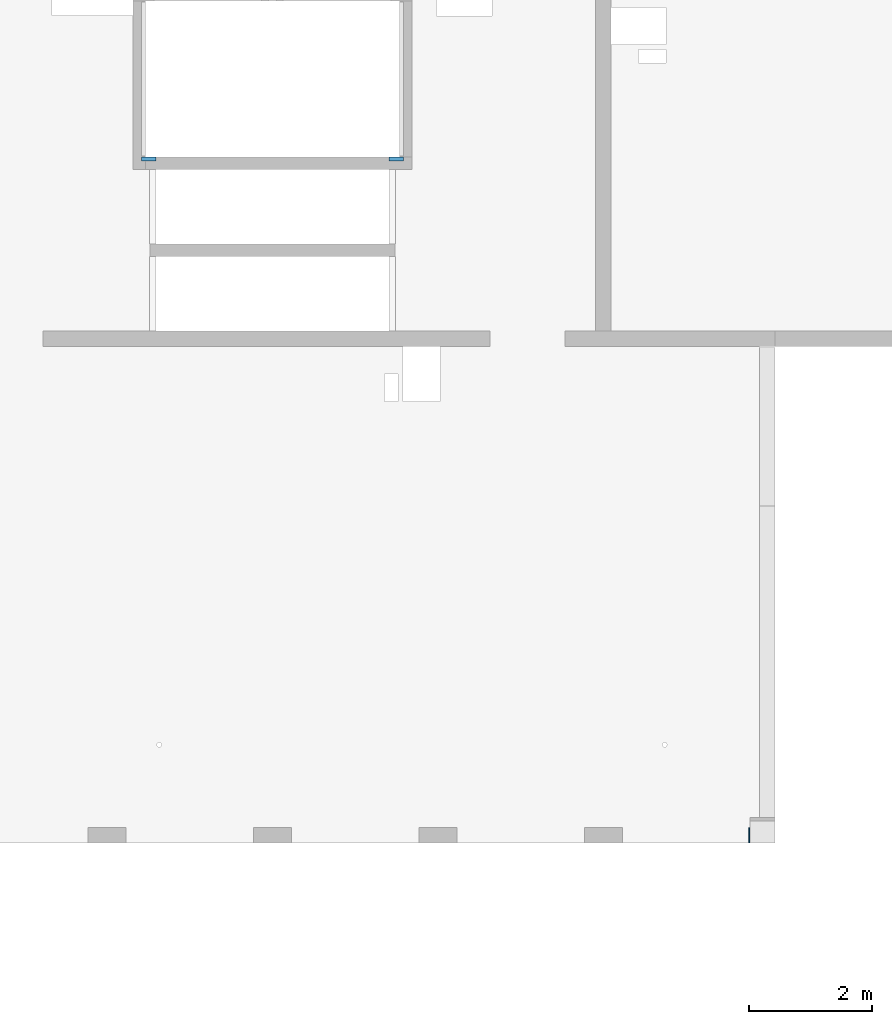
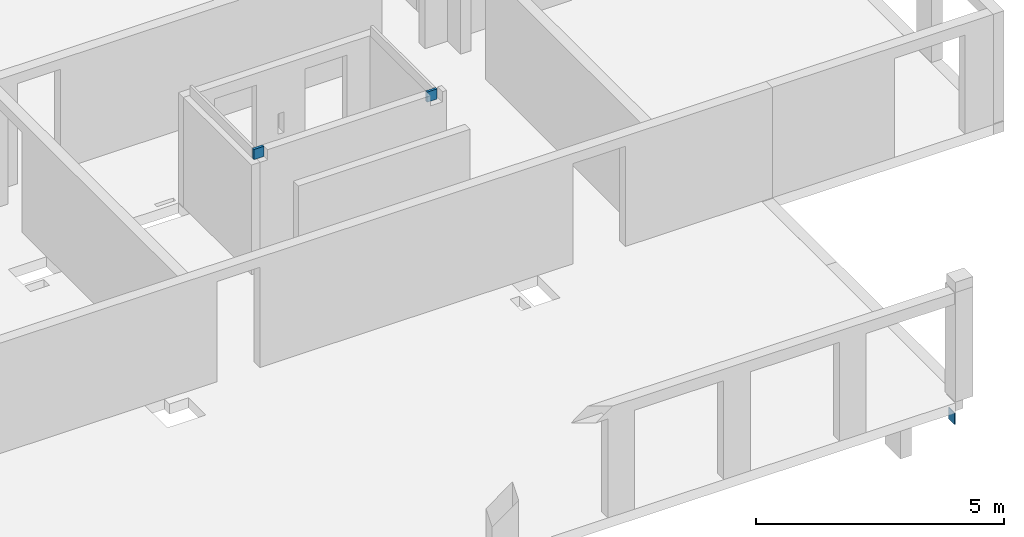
# One storey, part 11 of 12: 3 walls, 1 opening.
"""IFC2X3 building model written with IfcOpenShell, lengths in millimetres."""

from ifc_helpers import new_model, entity, si_unit, converted_unit, derived_unit, direction, frame, frame_2d, origin, place, context, subcontext, project, spatial, rectangle, extrude, material, layer, layer_set, layer_usage, type_object, element, save


model = new_model("IFC2X3")

# Units and contexts
model_context = context("Model", 3, precision=0.01, world=origin(), true_north=direction((6.12303176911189e-17, 1.0)))
body_context = subcontext(model_context, "Body", "Model", "MODEL_VIEW")
ifc_project = project(units=[si_unit("LENGTHUNIT", "METRE", prefix="MILLI"), si_unit("AREAUNIT", "SQUARE_METRE"), si_unit("VOLUMEUNIT", "CUBIC_METRE"), converted_unit("PLANEANGLEUNIT", "DEGREE", entity("IfcRatioMeasure", 0.0174532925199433), si_unit("PLANEANGLEUNIT", "RADIAN"), dimensions=[0, 0, 0, 0, 0, 0, 0]), si_unit("MASSUNIT", "GRAM", prefix="KILO"), derived_unit("MASSDENSITYUNIT", [(si_unit("MASSUNIT", "GRAM", prefix="KILO"), 1), (si_unit("LENGTHUNIT", "METRE"), -3)]), si_unit("TIMEUNIT", "SECOND"), si_unit("FREQUENCYUNIT", "HERTZ"), si_unit("THERMODYNAMICTEMPERATUREUNIT", "DEGREE_CELSIUS"), derived_unit("THERMALTRANSMITTANCEUNIT", [(si_unit("MASSUNIT", "GRAM", prefix="KILO"), 1), (si_unit("THERMODYNAMICTEMPERATUREUNIT", "KELVIN"), -1), (si_unit("TIMEUNIT", "SECOND"), -3)]), derived_unit("VOLUMETRICFLOWRATEUNIT", [(si_unit("LENGTHUNIT", "METRE"), 3), (si_unit("TIMEUNIT", "SECOND"), -1)]), si_unit("ELECTRICCURRENTUNIT", "AMPERE"), si_unit("ELECTRICVOLTAGEUNIT", "VOLT"), si_unit("POWERUNIT", "WATT"), si_unit("FORCEUNIT", "NEWTON", prefix="KILO"), si_unit("ILLUMINANCEUNIT", "LUX"), si_unit("LUMINOUSFLUXUNIT", "LUMEN"), si_unit("LUMINOUSINTENSITYUNIT", "CANDELA"), derived_unit("USERDEFINED", [(si_unit("MASSUNIT", "GRAM", prefix="KILO"), -1), (si_unit("LENGTHUNIT", "METRE"), -2), (si_unit("TIMEUNIT", "SECOND"), 3), (si_unit("LUMINOUSFLUXUNIT", "LUMEN"), 1)]), derived_unit("LINEARVELOCITYUNIT", [(si_unit("LENGTHUNIT", "METRE"), 1), (si_unit("TIMEUNIT", "SECOND"), -1)]), si_unit("PRESSUREUNIT", "PASCAL"), derived_unit("USERDEFINED", [(si_unit("LENGTHUNIT", "METRE"), -2), (si_unit("MASSUNIT", "GRAM", prefix="KILO"), 1), (si_unit("TIMEUNIT", "SECOND"), -2)])], contexts=[model_context])

# Site, building, storey
site_placement = place(None, origin())
site = spatial("IfcSite", under=ifc_project, at=site_placement, Name="Default", CompositionType="ELEMENT")
building_placement = place(site_placement, origin())
building = spatial("IfcBuilding", under=site, at=building_placement, Name="niet gebruiken", CompositionType="ELEMENT")
storey_placement = place(building_placement, frame((0.0, 0.0, 21510.0)))
storey = spatial("IfcBuildingStorey", under=building, at=storey_placement, Name="07 zevende verdieping", CompositionType="ELEMENT", Elevation=21510.0)

# Wall, opening
ifc_material_1 = material(Name="NLRS_f2_beton ihwg")
ifc_layer_1 = layer(ifc_material_1, 250.0)
ifc_layer_set_1 = layer_set([ifc_layer_1], Name="Basic Wall:NLRS_21.21_WA_beton ihwg d=250_gen")
ifc_layer_usage_1 = layer_usage(ifc_layer_set_1, "AXIS2", "NEGATIVE", 125.0)
wall_type_1 = type_object("IfcWallType", Name="Basic Wall:NLRS_21.21_WA_beton ihwg d=250_gen", PredefinedType="STANDARD", material=ifc_layer_set_1)
wall_1_placement = place(storey_placement, frame((99570.0, 28881.0, -620.0)))
wall_1 = element("IfcWallStandardCase", 1, at=wall_1_placement, inside=storey, type_object=wall_type_1, material=ifc_layer_usage_1, Name="Basic Wall:NLRS_21.21_WA_beton ihwg d=250_gen", ObjectType="Basic Wall:NLRS_21.21_WA_beton ihwg d=250_gen", context=body_context, shape_type="SweptSolid", body=[
    extrude(rectangle(XDim=19.9999999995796, YDim=250.000000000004, at=frame_2d((9.99999999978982, 1.63424829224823e-13), x_axis=(-1.0, 0.0))), origin(), (0.0, 0.0, 1.0), 280.000000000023),
])
opening_placement = place(wall_1_placement, origin())
element("IfcOpeningElement", 2, at=opening_placement, cuts=wall_1, Name="Basic Wall:NLRS_21.21_WA_beton ihwg d=250_gen", ObjectType="Opening", context=body_context, shape_type="SweptSolid", body=[
    extrude(rectangle(XDim=2440.0, YDim=2080.0, at=frame_2d((-8.64019966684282e-12, -2.1600499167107e-12), x_axis=(0.0, 1.0))), frame((-1020.0, -1399.0, -1220.0), z_axis=(0.0, 1.0, 0.0), x_axis=(-1.0, 0.0, 0.0)), (0.0, 0.0, 1.0), 3048.0),
])

# Walls
ifc_material_2 = material(Name="NLRS_f2_beton prefab")
ifc_layer_2 = layer(ifc_material_2, 60.0)
ifc_layer_set_2 = layer_set([ifc_layer_2], Name="Basic Wall:NLRS_22.21_WA_beton prefab d=60_gen")
ifc_layer_usage_2 = layer_usage(ifc_layer_set_2, "AXIS2", "NEGATIVE", 30.0)
wall_type_2 = type_object("IfcWallType", Name="Basic Wall:NLRS_22.21_WA_beton prefab d=60_gen", PredefinedType="STANDARD", material=ifc_layer_set_2)
wall_2_placement = place(storey_placement, frame((89665.02321398, 39916.0, 2630.0)))
element("IfcWallStandardCase", 3, at=wall_2_placement, inside=storey, type_object=wall_type_2, material=ifc_layer_usage_2, Name="Basic Wall:NLRS_22.21_WA_beton prefab d=60_gen", ObjectType="Basic Wall:NLRS_22.21_WA_beton prefab d=60_gen", context=body_context, shape_type="SweptSolid", body=[
    extrude(rectangle(XDim=234.976753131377, YDim=60.0000000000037, at=frame_2d((117.488376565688, -4.12292422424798e-12), x_axis=(-1.0, 0.0))), origin(), (0.0, 0.0, 1.0), 250.000000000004),
])
ifc_layer_usage_3 = layer_usage(ifc_layer_set_2, "AXIS2", "POSITIVE", -30.0)
wall_3_placement = place(storey_placement, frame((93934.9767860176, 39916.0, 2630.0), z_axis=(0.0, 0.0, 1.0), x_axis=(-1.0, 0.0, 0.0)))
element("IfcWallStandardCase", 4, at=wall_3_placement, inside=storey, type_object=wall_type_2, material=ifc_layer_usage_3, Name="Basic Wall:NLRS_22.21_WA_beton prefab d=60_gen", ObjectType="Basic Wall:NLRS_22.21_WA_beton prefab d=60_gen", context=body_context, shape_type="SweptSolid", body=[
    extrude(rectangle(XDim=234.976753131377, YDim=60.0000000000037, at=frame_2d((117.488376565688, 4.12114786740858e-12), x_axis=(-1.0, 0.0))), origin(), (0.0, 0.0, 1.0), 250.000000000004),
])

save(model, "model.ifc")
